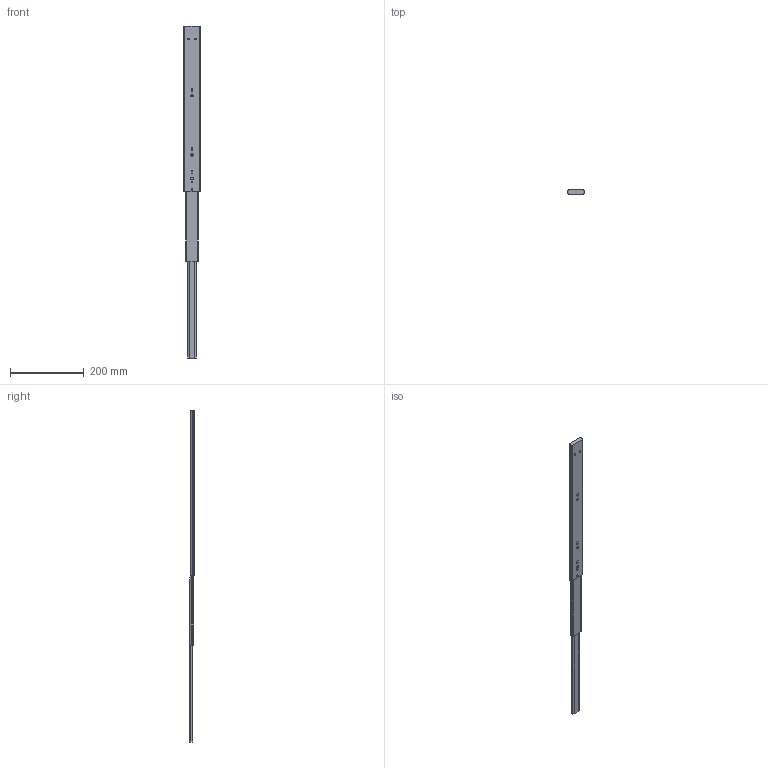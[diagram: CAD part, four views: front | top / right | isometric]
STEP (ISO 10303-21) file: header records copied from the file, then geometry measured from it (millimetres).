
FILE_DESCRIPTION (( 'STEP AP203' ), '1' );
FILE_NAME ('4587118H(嶺).STEP', '2020-02-13T09:03:33', ( 'ZZG' ), ( 'Microsoft' ), 'SwSTEP 2.0', 'SolidWorks 2012', '' );
FILE_SCHEMA (( 'CONFIG_CONTROL_DESIGN' ));
Length unit declared in the file: millimetre
Products named in the file (1): 4587118H(嶺)
Bounding box: 45.57 x 12.7 x 898.7 mm (x, y, z)
Volume: 337644 mm3; surface area: 80505.7 mm2
Topology: 1 solids, 1 shells, 213 faces, 570 edges, 378 vertices
Faces by surface type: cylinder 107, plane 96, cone 6, bspline 4
Entity records: 6946 total; most frequent: CARTESIAN_POINT 1363, DIRECTION 1198, ORIENTED_EDGE 1140, EDGE_CURVE 570, AXIS2_PLACEMENT_3D 438, VERTEX_POINT 378, VECTOR 322, LINE 322
